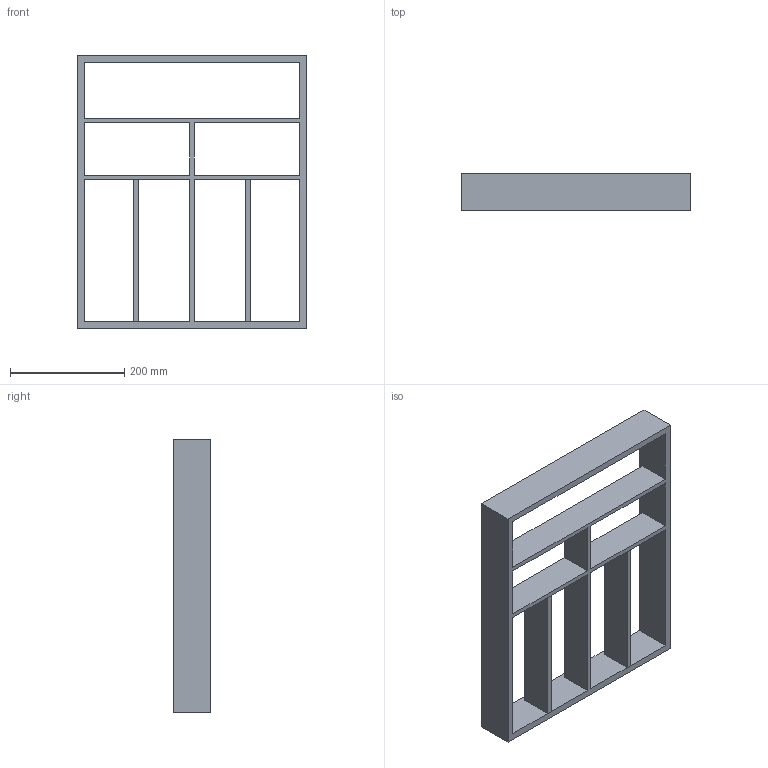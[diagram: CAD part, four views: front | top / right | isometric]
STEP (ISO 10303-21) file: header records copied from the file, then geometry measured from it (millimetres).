
FILE_DESCRIPTION (( 'STEP AP214' ), '1' );
FILE_NAME ('Vario Besteck NL500_B500_19 mm_Alu.step', '2010-11-04T08:33:17', ( 'grass' ), ( '' ), 'SwSTEP 2.0', 'SolidWorks 2010', '' );
FILE_SCHEMA (( 'AUTOMOTIVE_DESIGN' ));
Length unit declared in the file: millimetre
Products named in the file (1): Vario Besteck NL500_B500_19 mm_Alu
Bounding box: 402 x 65 x 479 mm (x, y, z)
Volume: 2064240 mm3; surface area: 469482 mm2
Topology: 3 solids, 3 shells, 34 faces, 96 edges, 64 vertices
Faces by surface type: plane 34
Entity records: 1152 total; most frequent: CARTESIAN_POINT 195, ORIENTED_EDGE 192, DIRECTION 166, EDGE_CURVE 96, LINE 96, VECTOR 96, VERTEX_POINT 64, EDGE_LOOP 40
